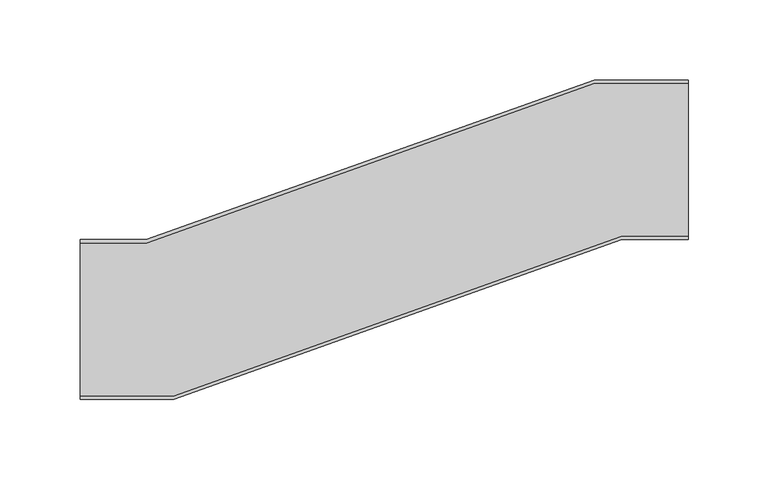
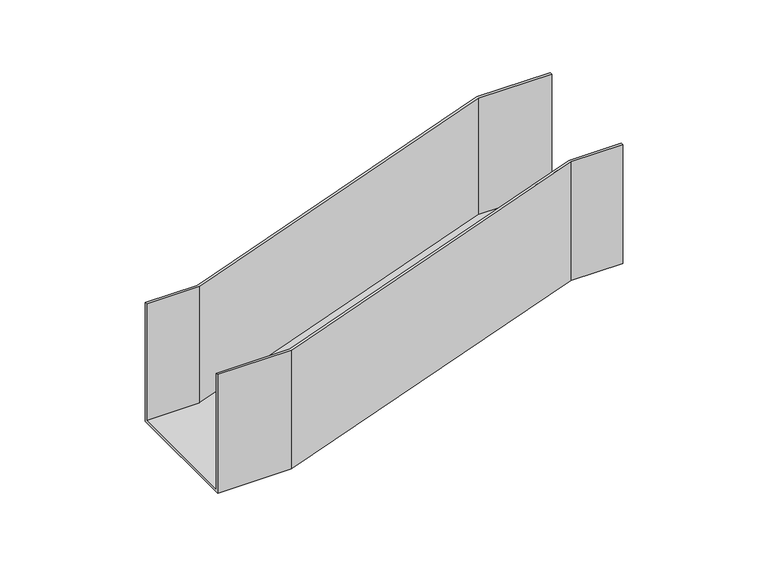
"""IFC4 building model written with IfcOpenShell, lengths in millimetres: cable carrier fitting geometry, BAKS_Bypass_horizontal_left_OPZL : OPZLCH100."""

from ifc_helpers import new_model, si_unit, origin, place, context, project, spatial, faceted_brep, source, transform, mapped, element, save


def cable_carrier_fitting_3771e234(model_context):
    return source(origin(), model_context, "Body", "Brep", [
        faceted_brep([(-190.0, -2.0, 2.0), (-190.0, -2.0, 100.0), (-190.0, 0.0, 100.0), (-190.0, 0.0, 0.0), (-190.0, -100.0, 0.0), (-190.0, -100.0, 100.0), (-190.0, -98.0, 100.0), (-190.0, -98.0, 2.0), (-148.31426, -2.0, 2.0), (-148.31426, -2.0, 100.0), (131.68574, 98.0, 100.0), (190.0, 98.0, 100.0), (190.0, 100.0, 100.0), (131.3393125, 100.0, 100.0), (-148.6606875, 0.0, 100.0), (-148.6606875, 0.0, 0.0), (131.3393125, 100.0, 0.0), (190.0, 100.0, 0.0), (190.0, 0.0, 0.0), (148.6606875, 0.0, 0.0), (-131.3393125, -100.0, 0.0), (-131.3393125, -100.0, 100.0), (148.6606875, 0.0, 100.0), (190.0, 0.0, 100.0), (190.0, 2.0, 100.0), (148.31426, 2.0, 100.0), (-131.68574, -98.0, 100.0), (-131.68574, -98.0, 2.0), (148.31426, 2.0, 2.0), (190.0, 2.0, 2.0), (190.0, 98.0, 2.0), (131.68574, 98.0, 2.0)], [[[0, 1, 2, 3, 4, 5, 6, 7]], [[1, 0, 8, 9]], [[2, 1, 9, 10, 11, 12, 13, 14]], [[3, 2, 14, 15]], [[4, 3, 15, 16, 17, 18, 19, 20]], [[5, 4, 20, 21]], [[6, 5, 21, 22, 23, 24, 25, 26]], [[7, 6, 26, 27]], [[0, 7, 27, 28, 29, 30, 31, 8]], [[9, 8, 31, 10]], [[15, 14, 13, 16]], [[21, 20, 19, 22]], [[27, 26, 25, 28]], [[30, 29, 24, 23, 18, 17, 12, 11]], [[10, 31, 30, 11]], [[16, 13, 12, 17]], [[22, 19, 18, 23]], [[28, 25, 24, 29]]]),
    ])


if __name__ == "__main__":
    model = new_model("IFC4")
    model_context = context("Model", 3, world=origin())
    ifc_project = project(units=[si_unit("LENGTHUNIT", "METRE", prefix="MILLI")], contexts=[model_context])
    site = spatial("IfcSite", under=ifc_project)
    building = spatial("IfcBuilding", under=site)
    placement = place(None, origin())
    cable_carrier_fitting_shape = cable_carrier_fitting_3771e234(model_context)
    element("IfcCableCarrierFitting", 1, ObjectType="BAKS_Bypass_horizontal_left_OPZL : OPZLCH100", at=placement, inside=building, context=model_context, shape_type="MappedRepresentation", body=[
        mapped(cable_carrier_fitting_shape, transform((0.0, 0.0, 0.0), x_axis=(1.0, 0.0, 0.0), y_axis=(0.0, 1.0, 0.0), z_axis=(0.0, 0.0, 1.0))),
    ])
    save(model, "model.ifc")
